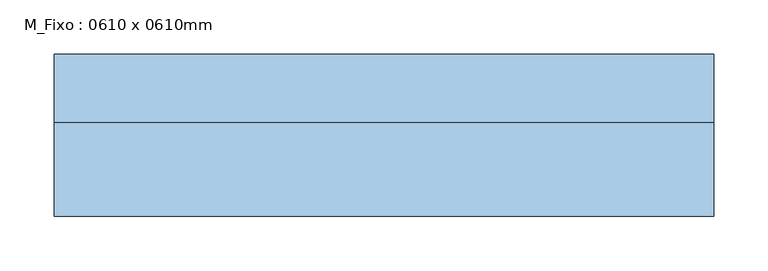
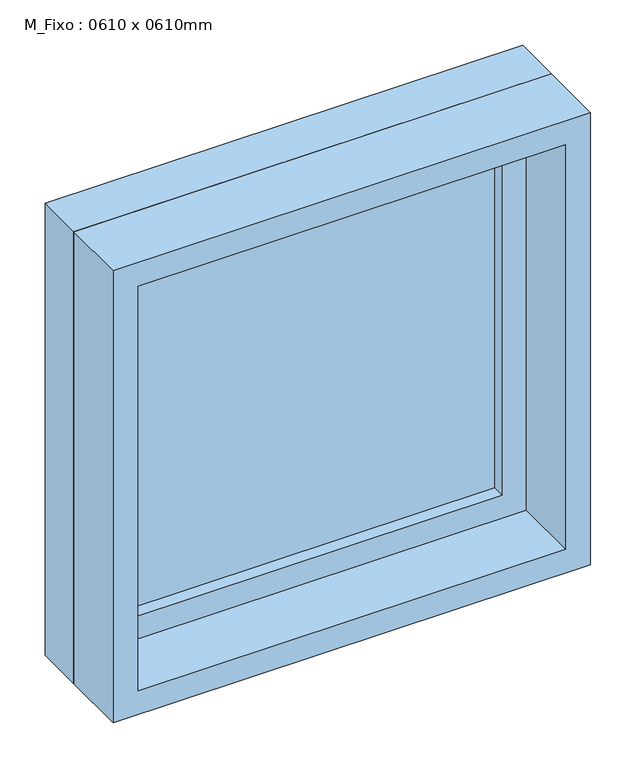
"""IFC4 building model written with IfcOpenShell, lengths in millimetres: window geometry, M_Fixo : 0610 x 0610mm."""

from ifc_helpers import new_model, si_unit, frame, origin, place, context, project, spatial, polyline, outline, extrude, source, transform, mapped, element, save


def m_fixo_0610_x_0610mm_d1ac9692(model_context):
    return source(origin(), model_context, "Body", "SweptSolid", [
        extrude(outline(polyline([(-242.0, 53.0), (242.0, 53.0), (242.0, 41.0), (-242.0, 41.0), (-242.0, 53.0)])), frame((0.0, 0.0, 978.0), z_axis=(0.0, 0.0, 1.0), x_axis=(1.0, 0.0, 0.0)), (0.0, 0.0, 1.0), 484.0),
        extrude(outline(polyline([(1506.0, -286.0), (934.0, -286.0), (934.0, 286.0), (1506.0, 286.0), (1506.0, -286.0)]), holes=[polyline([(1462.0, -242.0), (1462.0, 242.0), (978.0, 242.0), (978.0, -242.0), (1462.0, -242.0)])]), frame((0.0, 25.0, 0.0), z_axis=(0.0, 1.0, 0.0), x_axis=(0.0, 0.0, 1.0)), (0.0, 0.0, 1.0), 44.0),
        extrude(outline(polyline([(1525.0, -305.0), (915.0, -305.0), (915.0, 305.0), (1525.0, 305.0), (1525.0, -305.0)]), holes=[polyline([(1506.0, -286.0), (1506.0, 286.0), (934.0, 286.0), (934.0, -286.0), (1506.0, -286.0)])]), frame((0.0, 25.0, 0.0), z_axis=(0.0, 1.0, 0.0), x_axis=(0.0, 0.0, 1.0)), (0.0, 0.0, 1.0), 63.0),
        extrude(outline(polyline([(1525.0, -305.0), (915.0, -305.0), (915.0, 305.0), (1525.0, 305.0), (1525.0, -305.0)]), holes=[polyline([(1493.0, -273.0), (1493.0, 273.0), (947.0, 273.0), (947.0, -273.0), (1493.0, -273.0)])]), frame((0.0, -62.0, 0.0), z_axis=(0.0, 1.0, 0.0), x_axis=(0.0, 0.0, 1.0)), (0.0, 0.0, 1.0), 87.0),
    ])


if __name__ == "__main__":
    model = new_model("IFC4")
    model_context = context("Model", 3, world=origin())
    ifc_project = project(units=[si_unit("LENGTHUNIT", "METRE", prefix="MILLI")], contexts=[model_context])
    site = spatial("IfcSite", under=ifc_project)
    building = spatial("IfcBuilding", under=site)
    placement = place(None, origin())
    m_fixo_0610_x_0610mm_shape = m_fixo_0610_x_0610mm_d1ac9692(model_context)
    element("IfcWindow", 1, ObjectType="M_Fixo : 0610 x 0610mm", at=placement, inside=building, context=model_context, shape_type="MappedRepresentation", body=[
        mapped(m_fixo_0610_x_0610mm_shape, transform((0.0, 0.0, 0.0), x_axis=(1.0, 0.0, 0.0), y_axis=(0.0, 1.0, 0.0), z_axis=(0.0, 0.0, 1.0))),
    ])
    save(model, "model.ifc")
